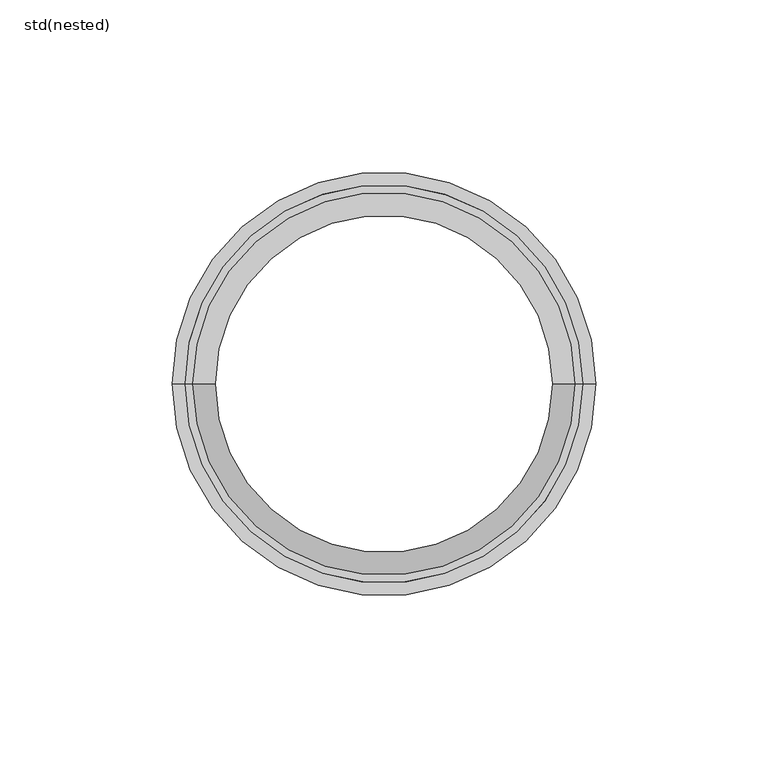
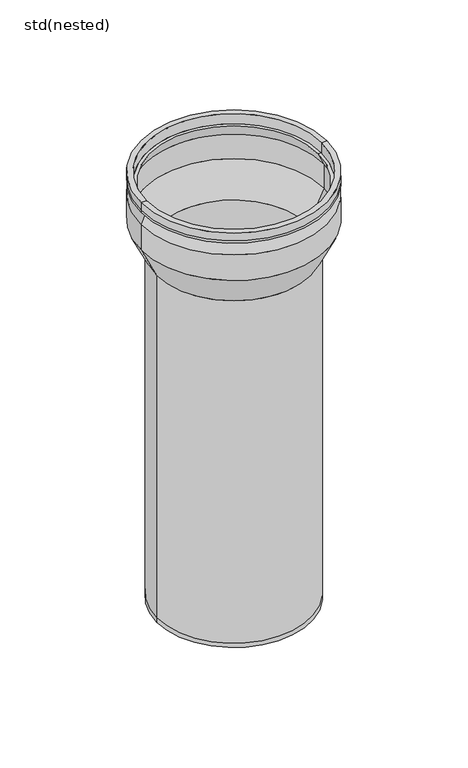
"""IFC4 building model written with IfcOpenShell, lengths in millimetres: sanitary terminal geometry, ZZZ_do not use_PF_ST_UN_sieve tube_ACO : std(nested)."""

import ifcopenshell
import ifcopenshell.guid

model = None  # the IFC model being written
_history = None  # IfcOwnerHistory: only IFC2X3 demands one
_inside = {}  # id of a spatial element -> (the spatial element, [elements in it])
_under = {}  # id of a project, library or spatial element -> (it, [spatial elements below it])
_declared = {}  # id of a project -> (the project, [libraries it declares])
_typed = {}  # id of a type object -> (the type object, [elements of that type])
_made_of = {}  # id of a material, layer set ... -> (it, [elements and type objects made of it])


def new_model(schema):
    """Start an empty IFC model of exactly this schema.

    Asked for "IFC4X3", IfcOpenShell would pick the latest addendum, in which some entities
    have other attributes; the version numbers below select the first issue.
    IFC2X3 requires an IfcOwnerHistory on every rooted entity: one is made here for all.
    """
    global model, _history
    if schema == "IFC4X3":
        model = ifcopenshell.file(schema_version=(4, 3, 0, 0))
    else:
        model = ifcopenshell.file(schema=schema)
    _inside.clear()
    _under.clear()
    _declared.clear()
    _typed.clear()
    _made_of.clear()
    _history = None
    if model.schema == "IFC2X3":
        org = make("IfcOrganization", Name="unknown")
        user = make(
            "IfcPersonAndOrganization",
            ThePerson=make("IfcPerson", FamilyName="unknown"),
            TheOrganization=org,
        )
        app = make(
            "IfcApplication",
            ApplicationDeveloper=org,
            Version="unknown",
            ApplicationFullName="unknown",
            ApplicationIdentifier="unknown",
        )
        _history = make(
            "IfcOwnerHistory",
            OwningUser=user,
            OwningApplication=app,
            ChangeAction="ADDED",
            CreationDate=0,
        )
    return model


def make(cls, **values):
    """One entity of the class cls with the attributes given. An attribute that is None is left unset."""
    return model.create_entity(
        cls, **{name: value for name, value in values.items() if value is not None}
    )


def rooted(cls, **values):
    """An entity with a GlobalId (a new one), such as an element, a storey or a relation."""
    return make(cls, GlobalId=ifcopenshell.guid.new(), OwnerHistory=_history, **values)


def si_unit(unit_type, name, prefix=None):
    """IfcSIUnit, for example si_unit("LENGTHUNIT", "METRE", prefix="MILLI")."""
    return make("IfcSIUnit", UnitType=unit_type, Prefix=prefix, Name=name)


def assignment(units):
    """IfcUnitAssignment: the units of a project."""
    return None if units is None else make("IfcUnitAssignment", Units=units)


def point(xyz):
    """IfcCartesianPoint."""
    return None if xyz is None else make("IfcCartesianPoint", Coordinates=xyz)


def direction(xyz):
    """IfcDirection."""
    return None if xyz is None else make("IfcDirection", DirectionRatios=xyz)


def frame(location, z_axis=None, x_axis=None):
    """IfcAxis2Placement3D, a coordinate frame: its origin and axes. An axis left out is left unset."""
    return make(
        "IfcAxis2Placement3D",
        Location=point(location),
        Axis=direction(z_axis),
        RefDirection=direction(x_axis),
    )


def origin():
    """The frame at (0, 0, 0) with its axes left unset."""
    return frame((0.0, 0.0, 0.0))


def place(relative_to, where):
    """IfcLocalPlacement: puts the frame where relative to a parent placement (None: the world)."""
    return make(
        "IfcLocalPlacement", PlacementRelTo=relative_to, RelativePlacement=where
    )


def context(
    kind, dimensions, precision=None, world=None, true_north=None, identifier=None
):
    """IfcGeometricRepresentationContext, for example the 3D "Model" context."""
    return make(
        "IfcGeometricRepresentationContext",
        ContextIdentifier=identifier,
        ContextType=kind,
        CoordinateSpaceDimension=dimensions,
        Precision=precision,
        WorldCoordinateSystem=world,
        TrueNorth=true_north,
    )


def project(units=None, contexts=None):
    """IfcProject with its units and contexts."""
    return rooted(
        "IfcProject",
        Name="project",
        RepresentationContexts=contexts,
        UnitsInContext=assignment(units),
    )


def spatial(cls, under=None, at=None, **own):
    """A site, building, storey or space (cls), placed at a placement, below another one or the project."""
    s = rooted(cls, ObjectPlacement=at, **own)
    if under is not None:
        _under.setdefault(under.id(), (under, []))[1].append(s)
    return s


def polyline(points):
    """IfcPolyline through the points."""
    return make("IfcPolyline", Points=[point(p) for p in points])


def circle_curve(where, radius):
    """IfcCircle in the frame where."""
    return make("IfcCircle", Position=where, Radius=radius)


def shape(context_of_items, identifier, shape_type, items):
    """IfcShapeRepresentation: the items that make up one representation, for example the "Body"."""
    return make(
        "IfcShapeRepresentation",
        ContextOfItems=context_of_items,
        RepresentationIdentifier=identifier,
        RepresentationType=shape_type,
        Items=items,
    )


def source(mapping_origin, context_of_items, identifier, shape_type, items):
    """IfcRepresentationMap: a shape defined once, which mapped items show again and again."""
    return make(
        "IfcRepresentationMap",
        MappingOrigin=mapping_origin,
        MappedRepresentation=shape(context_of_items, identifier, shape_type, items),
    )


def transform(
    local_origin,
    x_axis=None,
    y_axis=None,
    z_axis=None,
    scale=None,
    scale2=None,
    scale3=None,
    uniform=True,
):
    """IfcCartesianTransformationOperator3D, or its non-uniform kind. x_axis, y_axis, z_axis: its Axis1, 2, 3."""
    if uniform:
        return make(
            "IfcCartesianTransformationOperator3D",
            Axis1=direction(x_axis),
            Axis2=direction(y_axis),
            LocalOrigin=point(local_origin),
            Scale=scale,
            Axis3=direction(z_axis),
        )
    return make(
        "IfcCartesianTransformationOperator3DnonUniform",
        Axis1=direction(x_axis),
        Axis2=direction(y_axis),
        LocalOrigin=point(local_origin),
        Scale=scale,
        Axis3=direction(z_axis),
        Scale2=scale2,
        Scale3=scale3,
    )


def mapped(mapping_source, mapping_target):
    """IfcMappedItem: shows the shape of a source again, moved by a transform."""
    return make(
        "IfcMappedItem", MappingSource=mapping_source, MappingTarget=mapping_target
    )


def made_of(thing, what):
    """Note that an element or type object is made of a material, layer set ...; save() writes the relation."""
    if what is not None:
        _made_of.setdefault(what.id(), (what, []))[1].append(thing)
    return thing


def element(
    cls,
    number,
    at=None,
    inside=None,
    cuts=None,
    type_object=None,
    material=None,
    context=None,
    identifier="Body",
    shape_type=None,
    held_by="IfcProductDefinitionShape",
    body=None,
    shapes=None,
    **own,
):
    """One element of the class cls, such as IfcWall. Its Tag is "e" and its number.

    at: its placement. inside: the storey or other place that contains it. cuts: it is an
    opening in that element (IfcRelVoidsElement). A single representation is given by context,
    identifier, shape_type and body (its items); several are given by shapes. held_by: the class
    of the entity that holds the representations. save() writes the other relations.
    """
    e = rooted(cls, Tag="e%d" % number, ObjectPlacement=at, **own)
    if body is not None:
        shapes = [shape(context, identifier, shape_type, body)]
    if shapes is not None:
        e.Representation = make(held_by, Representations=shapes)
    if inside is not None:
        _inside.setdefault(inside.id(), (inside, []))[1].append(e)
    if cuts is not None:
        rooted(
            "IfcRelVoidsElement", RelatingBuildingElement=cuts, RelatedOpeningElement=e
        )
    if type_object is not None:
        _typed.setdefault(type_object.id(), (type_object, []))[1].append(e)
    return made_of(e, material)


def aggregate(whole, parts):
    """IfcRelAggregates: a whole, such as a stair, and the parts it consists of."""
    return rooted("IfcRelAggregates", RelatingObject=whole, RelatedObjects=parts)


def save(model, path):
    """Write the relations noted so far, then the file.

    IfcRelAggregates (storeys below a building ...), IfcRelContainedInSpatialStructure (elements
    in a storey), IfcRelDefinesByType, IfcRelAssociatesMaterial and IfcRelDeclares: one each for
    every whole, place, type object, material and project.
    """
    for whole, parts in _under.values():
        aggregate(whole, parts)
    for where, things in _inside.values():
        rooted(
            "IfcRelContainedInSpatialStructure",
            RelatedElements=things,
            RelatingStructure=where,
        )
    for kind, things in _typed.values():
        rooted("IfcRelDefinesByType", RelatedObjects=things, RelatingType=kind)
    for what, things in _made_of.values():
        rooted("IfcRelAssociatesMaterial", RelatedObjects=things, RelatingMaterial=what)
    for by, libraries in _declared.values():
        rooted("IfcRelDeclares", RelatingContext=by, RelatedDefinitions=libraries)
    model.write(path)


def plane_surface(at):
    """IfcPlane: the flat surface through the origin of the frame at, square to its z axis."""
    return make("IfcPlane", Position=at)


def cylinder_surface(at, radius):
    """IfcCylindricalSurface: all points at the distance radius from the z axis of the frame at."""
    return make("IfcCylindricalSurface", Position=at, Radius=radius)


def revolved_surface(curve, axis_point, axis_direction):
    """IfcSurfaceOfRevolution: the curve turned about the line through axis_point along axis_direction."""
    return make(
        "IfcSurfaceOfRevolution",
        SweptCurve=make("IfcArbitraryOpenProfileDef", ProfileType="CURVE", Curve=curve),
        AxisPosition=make("IfcAxis1Placement", Location=point(axis_point), Axis=direction(axis_direction)),
    )


def advanced_brep(points, edges, surfaces, faces):
    """IfcAdvancedBrep: a solid bounded by faces that lie on surfaces and meet in shared edges.

    An edge is (start, end): straight between two places in points (the first is 0);
    or (start, end, curve); or (start, end, curve, False) where it runs against its curve.
    A face is (place in surfaces, loops), or (place, loops, False) where it looks against
    its surface's normal. A loop lists edges by number (the first is 1), with a minus sign
    where the edge is run from its end to its start. The first loop is the outer one.
    """
    corners = [point(p) for p in points]
    vertices = [make("IfcVertexPoint", VertexGeometry=c) for c in corners]
    made = []
    for start, end, *more in edges:
        made.append(
            make(
                "IfcEdgeCurve",
                EdgeStart=vertices[start],
                EdgeEnd=vertices[end],
                EdgeGeometry=more[0] if more else make("IfcPolyline", Points=[corners[start], corners[end]]),
                SameSense=more[1] if len(more) > 1 else True,
            )
        )
    hull = []
    for where, loops, *sense in faces:
        bounds = []
        for j, loop in enumerate(loops):
            ring = [make("IfcOrientedEdge", EdgeElement=made[abs(k) - 1], Orientation=k > 0) for k in loop]
            bounds.append(
                make(
                    "IfcFaceOuterBound" if j == 0 else "IfcFaceBound",
                    Bound=make("IfcEdgeLoop", EdgeList=ring),
                    Orientation=True,
                )
            )
        hull.append(make("IfcAdvancedFace", Bounds=bounds, FaceSurface=surfaces[where], SameSense=sense[0] if sense else True))
    return make("IfcAdvancedBrep", Outer=make("IfcClosedShell", CfsFaces=hull))


def std_nested_d5276219(model_context):
    return source(origin(), model_context, "Body", "AdvancedBrep", [
        advanced_brep(
        [(61.5, 0.0, -7.0), (-61.5, 0.0, -7.0), (-61.5, 0.0, -5.5), (61.5, 0.0, -5.5), (57.875, 0.0, -7.0), (-57.875, 0.0, -7.0), (57.875, 0.0, 0.0), (-57.875, 0.0, 0.0), (61.5, 0.0, 0.0), (-61.5, 0.0, 0.0)],
        [
            (0, 1, circle_curve(frame((0.0, 0.0, -7.0), z_axis=(0.0, 0.0, 1.0), x_axis=(-1.0, 0.0, 0.0)), 61.5)),
            (1, 2),
            (2, 3, circle_curve(frame((0.0, 0.0, -5.5), z_axis=(0.0, 0.0, -1.0), x_axis=(-1.0, 0.0, 0.0)), 61.5)),
            (3, 0),
            (1, 0, circle_curve(frame((0.0, 0.0, -7.0), z_axis=(0.0, 0.0, 1.0), x_axis=(-1.0, 0.0, 0.0)), 61.5)),
            (3, 2, circle_curve(frame((0.0, 0.0, -5.5), z_axis=(0.0, 0.0, -1.0), x_axis=(-1.0, 0.0, 0.0)), 61.5)),
            (4, 5, circle_curve(frame((0.0, 0.0, -7.0), z_axis=(0.0, 0.0, 1.0), x_axis=(-1.0, 0.0, 0.0)), 57.875)),
            (5, 1),
            (0, 4),
            (5, 4, circle_curve(frame((0.0, 0.0, -7.0), z_axis=(0.0, 0.0, 1.0), x_axis=(-1.0, 0.0, 0.0)), 57.875)),
            (6, 7, circle_curve(frame((0.0, 0.0, 0.0), z_axis=(0.0, 0.0, 1.0), x_axis=(-1.0, 0.0, 0.0)), 57.875)),
            (7, 5),
            (4, 6),
            (7, 6, circle_curve(frame((0.0, 0.0, 0.0), z_axis=(0.0, 0.0, 1.0), x_axis=(-1.0, 0.0, 0.0)), 57.875)),
            (8, 9, circle_curve(frame((0.0, 0.0, 0.0), z_axis=(0.0, 0.0, 1.0), x_axis=(-1.0, 0.0, 0.0)), 61.5)),
            (9, 7),
            (6, 8),
            (9, 8, circle_curve(frame((0.0, 0.0, 0.0), z_axis=(0.0, 0.0, 1.0), x_axis=(-1.0, 0.0, 0.0)), 61.5)),
            (2, 9),
            (8, 3),
        ],
        [
            cylinder_surface(frame((0.0, 0.0, 50.0), z_axis=(0.0, 0.0, -1.0), x_axis=(-1.0, 0.0, 0.0)), 61.5),
            plane_surface(frame((0.0, 0.0, -7.0), z_axis=(0.0, 0.0, -1.0), x_axis=(-1.0, 0.0, 0.0))),
            revolved_surface(polyline([(-57.875, 0.0, -7.0), (-57.875, 0.0, 0.0)]), (0.0, 0.0, 50.0), (0.0, 0.0, -1.0)),
            plane_surface(frame((0.0, 0.0, 0.0), z_axis=(0.0, 0.0, 1.0), x_axis=(-1.0, 0.0, 0.0))),
        ],
        [
            (0, [[1, 2, 3, 4]]),
            (0, [[5, -4, 6, -2]]),
            (1, [[7, 8, -1, 9]]),
            (1, [[10, -9, -5, -8]]),
            (2, [[11, 12, -7, 13]]),
            (2, [[14, -13, -10, -12]]),
            (3, [[15, 16, -11, 17]]),
            (3, [[18, -17, -14, -16]]),
            (0, [[-3, 19, -15, 20]]),
            (0, [[-6, -20, -18, -19]]),
        ],
    ),
        advanced_brep(
        [(51.0, 0.0, -297.0), (-51.0, 0.0, -297.0), (-51.0, 0.0, -294.0), (51.0, 0.0, -294.0), (49.0, 0.0, -297.0), (-49.0, 0.0, -297.0), (49.0, 0.0, -54.2263673), (-49.0, 0.0, -54.2263673), (59.5, 0.0, -32.698177), (-59.5, 0.0, -32.698177), (59.5, 0.0, -15.674602), (-59.5, 0.0, -15.674602), (55.6378184, 0.0, -7.0), (-55.6378184, 0.0, -7.0), (57.8270909, 0.0, -7.0), (-57.8270909, 0.0, -7.0), (61.5, 0.0, -15.2494889), (-61.5, 0.0, -15.2494889), (61.5, 0.0, -33.1599133), (-61.5, 0.0, -33.1599133), (51.0, 0.0, -54.6881037), (-51.0, 0.0, -54.6881037)],
        [
            (0, 1, circle_curve(frame((0.0, 0.0, -297.0), z_axis=(0.0, 0.0, 1.0), x_axis=(-1.0, 0.0, 0.0)), 51.0)),
            (1, 2),
            (2, 3, circle_curve(frame((0.0, 0.0, -294.0), z_axis=(0.0, 0.0, -1.0), x_axis=(-1.0, 0.0, 0.0)), 51.0)),
            (3, 0),
            (1, 0, circle_curve(frame((0.0, 0.0, -297.0), z_axis=(0.0, 0.0, 1.0), x_axis=(-1.0, 0.0, 0.0)), 51.0)),
            (3, 2, circle_curve(frame((0.0, 0.0, -294.0), z_axis=(0.0, 0.0, -1.0), x_axis=(-1.0, 0.0, 0.0)), 51.0)),
            (4, 5, circle_curve(frame((0.0, 0.0, -297.0), z_axis=(0.0, 0.0, 1.0), x_axis=(-1.0, 0.0, 0.0)), 49.0)),
            (5, 1),
            (0, 4),
            (5, 4, circle_curve(frame((0.0, 0.0, -297.0), z_axis=(0.0, 0.0, 1.0), x_axis=(-1.0, 0.0, 0.0)), 49.0)),
            (6, 7, circle_curve(frame((0.0, 0.0, -54.2263673), z_axis=(0.0, 0.0, 1.0), x_axis=(-1.0, 0.0, 0.0)), 49.0)),
            (7, 5),
            (4, 6),
            (7, 6, circle_curve(frame((0.0, 0.0, -54.2263673), z_axis=(0.0, 0.0, 1.0), x_axis=(-1.0, 0.0, 0.0)), 49.0)),
            (8, 9, circle_curve(frame((0.0, 0.0, -32.698177), z_axis=(0.0, 0.0, 1.0), x_axis=(-1.0, 0.0, 0.0)), 59.5)),
            (9, 7),
            (6, 8),
            (9, 8, circle_curve(frame((0.0, 0.0, -32.698177), z_axis=(0.0, 0.0, 1.0), x_axis=(-1.0, 0.0, 0.0)), 59.5)),
            (10, 11, circle_curve(frame((0.0, 0.0, -15.674602), z_axis=(0.0, 0.0, 1.0), x_axis=(-1.0, 0.0, 0.0)), 59.5)),
            (11, 9),
            (8, 10),
            (11, 10, circle_curve(frame((0.0, 0.0, -15.674602), z_axis=(0.0, 0.0, 1.0), x_axis=(-1.0, 0.0, 0.0)), 59.5)),
            (12, 13, circle_curve(frame((0.0, 0.0, -7.0), z_axis=(0.0, 0.0, 1.0), x_axis=(-1.0, 0.0, 0.0)), 55.6378184)),
            (13, 11),
            (10, 12),
            (13, 12, circle_curve(frame((0.0, 0.0, -7.0), z_axis=(0.0, 0.0, 1.0), x_axis=(-1.0, 0.0, 0.0)), 55.6378184)),
            (14, 15, circle_curve(frame((0.0, 0.0, -7.0), z_axis=(0.0, 0.0, 1.0), x_axis=(-1.0, 0.0, 0.0)), 57.8270909)),
            (15, 13),
            (12, 14),
            (15, 14, circle_curve(frame((0.0, 0.0, -7.0), z_axis=(0.0, 0.0, 1.0), x_axis=(-1.0, 0.0, 0.0)), 57.8270909)),
            (16, 17, circle_curve(frame((0.0, 0.0, -15.2494889), z_axis=(0.0, 0.0, 1.0), x_axis=(-1.0, 0.0, 0.0)), 61.5)),
            (17, 15),
            (14, 16),
            (17, 16, circle_curve(frame((0.0, 0.0, -15.2494889), z_axis=(0.0, 0.0, 1.0), x_axis=(-1.0, 0.0, 0.0)), 61.5)),
            (18, 19, circle_curve(frame((0.0, 0.0, -33.1599133), z_axis=(0.0, 0.0, 1.0), x_axis=(-1.0, 0.0, 0.0)), 61.5)),
            (19, 17),
            (16, 18),
            (19, 18, circle_curve(frame((0.0, 0.0, -33.1599133), z_axis=(0.0, 0.0, 1.0), x_axis=(-1.0, 0.0, 0.0)), 61.5)),
            (20, 21, circle_curve(frame((0.0, 0.0, -54.6881037), z_axis=(0.0, 0.0, 1.0), x_axis=(-1.0, 0.0, 0.0)), 51.0)),
            (21, 19),
            (18, 20),
            (21, 20, circle_curve(frame((0.0, 0.0, -54.6881037), z_axis=(0.0, 0.0, 1.0), x_axis=(-1.0, 0.0, 0.0)), 51.0)),
            (2, 21),
            (20, 3),
        ],
        [
            cylinder_surface(frame((0.0, 0.0, 68.0), z_axis=(0.0, 0.0, -1.0), x_axis=(-1.0, 0.0, 0.0)), 51.0),
            plane_surface(frame((0.0, 0.0, -297.0), z_axis=(0.0, 0.0, -1.0), x_axis=(-1.0, 0.0, 0.0))),
            revolved_surface(polyline([(-49.0, 0.0, -297.0), (-49.0, 0.0, -54.22636729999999)]), (0.0, 0.0, 68.0), (0.0, 0.0, -1.0)),
            revolved_surface(polyline([(-49.0, 0.0, -54.2263673), (-59.5, 0.0, -32.698177)]), (0.0, 0.0, 68.0), (0.0, 0.0, -1.0)),
            revolved_surface(polyline([(-59.5, 0.0, -32.698177), (-59.5, 0.0, -15.674601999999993)]), (0.0, 0.0, 68.0), (0.0, 0.0, -1.0)),
            revolved_surface(polyline([(-59.5, 0.0, -15.674602), (-55.6378184, 0.0, -7.0)]), (0.0, 0.0, 68.0), (0.0, 0.0, -1.0)),
            plane_surface(frame((0.0, 0.0, -7.0), z_axis=(0.0, 0.0, 1.0), x_axis=(-1.0, 0.0, 0.0))),
            revolved_surface(polyline([(-57.8270909, 0.0, -7.0), (-61.5, 0.0, -15.2494889)]), (0.0, 0.0, 68.0), (0.0, 0.0, -1.0)),
            cylinder_surface(frame((0.0, 0.0, 68.0), z_axis=(0.0, 0.0, -1.0), x_axis=(-1.0, 0.0, 0.0)), 61.5),
            revolved_surface(polyline([(-61.5, 0.0, -33.1599133), (-51.0, 0.0, -54.6881037)]), (0.0, 0.0, 68.0), (0.0, 0.0, -1.0)),
        ],
        [
            (0, [[1, 2, 3, 4]]),
            (0, [[5, -4, 6, -2]]),
            (1, [[7, 8, -1, 9]]),
            (1, [[10, -9, -5, -8]]),
            (2, [[11, 12, -7, 13]]),
            (2, [[14, -13, -10, -12]]),
            (3, [[15, 16, -11, 17]]),
            (3, [[18, -17, -14, -16]]),
            (4, [[19, 20, -15, 21]]),
            (4, [[22, -21, -18, -20]]),
            (5, [[23, 24, -19, 25]]),
            (5, [[26, -25, -22, -24]]),
            (6, [[27, 28, -23, 29]]),
            (6, [[30, -29, -26, -28]]),
            (7, [[31, 32, -27, 33]]),
            (7, [[34, -33, -30, -32]]),
            (8, [[35, 36, -31, 37]]),
            (8, [[38, -37, -34, -36]]),
            (9, [[39, 40, -35, 41]]),
            (9, [[42, -41, -38, -40]]),
            (0, [[-3, 43, -39, 44]]),
            (0, [[-6, -44, -42, -43]]),
        ],
    ),
    ])


if __name__ == "__main__":
    model = new_model("IFC4")
    model_context = context("Model", 3, world=origin())
    ifc_project = project(units=[si_unit("LENGTHUNIT", "METRE", prefix="MILLI")], contexts=[model_context])
    site = spatial("IfcSite", under=ifc_project)
    building = spatial("IfcBuilding", under=site)
    placement = place(None, origin())
    std_nested_shape = std_nested_d5276219(model_context)
    element("IfcSanitaryTerminal", 1, ObjectType="ZZZ_do not use_PF_ST_UN_sieve tube_ACO : std(nested)", at=placement, inside=building, context=model_context, shape_type="MappedRepresentation", body=[
        mapped(std_nested_shape, transform((0.0, 0.0, 0.0), x_axis=(1.0, 0.0, 0.0), y_axis=(0.0, 1.0, 0.0), z_axis=(0.0, 0.0, 1.0))),
    ])
    save(model, "model.ifc")
